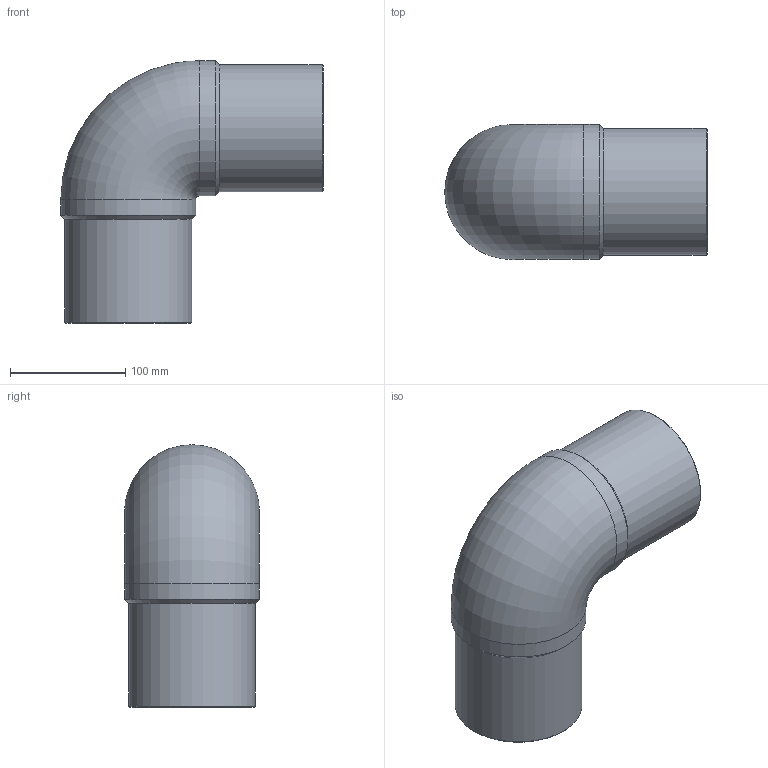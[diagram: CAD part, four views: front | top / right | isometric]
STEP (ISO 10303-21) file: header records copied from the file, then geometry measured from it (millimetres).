
FILE_DESCRIPTION(/* description */ ('Unknown'),/* implementation_level */ '2;1');
FILE_NAME(/* name */ 'G9P110B',/* time_stamp */ '2021-11-15T12:23:33+01:00',/* author */ ('Unknown'),/* organization */ ('Unknown'),/* preprocessor_version */ 'ST-DEVELOPER v16.7',/* originating_system */ 'Solid Edge',/* authorisation */ 'Unknown');
FILE_SCHEMA (('AUTOMOTIVE_DESIGN {1 0 10303 214 3 1 1}'));
Length unit declared in the file: millimetre
Products named in the file (1): G9P110B
Bounding box: 227.5 x 117 x 227.5 mm (x, y, z)
Volume: 840911.3 mm3; surface area: 210410.2 mm2
Topology: 1 solids, 1 shells, 14 faces, 34 edges, 22 vertices
Faces by surface type: cylinder 6, cone 4, plane 2, torus 2
Full cylindrical faces by diameter (mm): 96.8 x2, 110 x2, 117 x2
Entity records: 376 total; most frequent: CARTESIAN_POINT 76, DIRECTION 60, ORIENTED_EDGE 38, AXIS2_PLACEMENT_3D 30, EDGE_LOOP 27, FACE_BOUND 27, EDGE_CURVE 19, VERTEX_POINT 18
